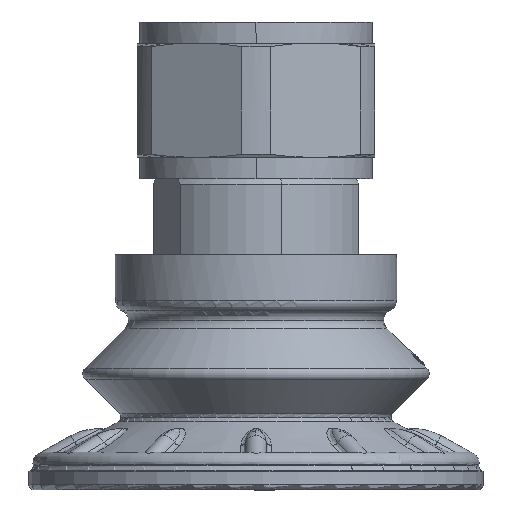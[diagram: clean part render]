
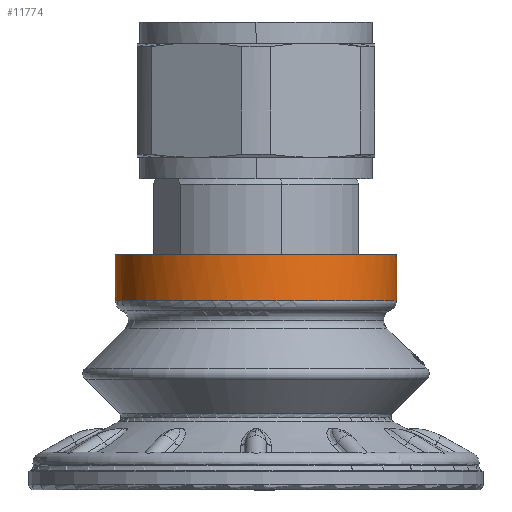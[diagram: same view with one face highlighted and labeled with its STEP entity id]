
A CAD part, left-side view. The second image highlights one B-rep face of the part: STEP entity #11774.
In plain terms, the highlighted cylindrical face has radius 13 mm (diameter 26 mm), a partial arc.
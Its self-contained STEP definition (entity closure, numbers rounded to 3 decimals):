
#337 = CARTESIAN_POINT ( 'NONE',  ( -11.359, 6.547, 13. ) ) ;
#389 = VERTEX_POINT ( 'NONE', #1770 ) ;
#509 = CARTESIAN_POINT ( 'NONE',  ( -12.662, -3.403, 8.733 ) ) ;
#625 = AXIS2_PLACEMENT_3D ( 'NONE', #5039, #8589, #11844 ) ;
#655 = CARTESIAN_POINT ( 'NONE',  ( -3.403, 12.662, 8.733 ) ) ;
#1458 = EDGE_CURVE ( 'NONE', #8893, #7058, #10173, .T. ) ;
#1522 = CARTESIAN_POINT ( 'NONE',  ( -1.702, -13., 13. ) ) ;
#1564 = CARTESIAN_POINT ( 'NONE',  ( 0., -13., 13. ) ) ;
#1673 = CARTESIAN_POINT ( 'NONE',  ( -13., -1.702, 13. ) ) ;
#1770 = CARTESIAN_POINT ( 'NONE',  ( 0., 13., 8.733 ) ) ;
#1880 = CARTESIAN_POINT ( 'NONE',  ( 0., 13., 13. ) ) ;
#1920 = CYLINDRICAL_SURFACE ( 'NONE', #625, 13. ) ;
#2120 = CARTESIAN_POINT ( 'NONE',  ( -1.702, 13., 13. ) ) ;
#2572 = CARTESIAN_POINT ( 'NONE',  ( -3.403, -12.662, 13. ) ) ;
#2737 = CARTESIAN_POINT ( 'NONE',  ( -10.396, 7.989, 8.733 ) ) ;
#2812 = CARTESIAN_POINT ( 'NONE',  ( -1.702, -13., 8.733 ) ) ;
#3783 = CARTESIAN_POINT ( 'NONE',  ( -10.396, -7.989, 8.733 ) ) ;
#4461 = CARTESIAN_POINT ( 'NONE',  ( 0., -13., 13. ) ) ;
#5039 = CARTESIAN_POINT ( 'NONE',  ( 0., 0., -8.77 ) ) ;
#5176 = CARTESIAN_POINT ( 'NONE',  ( -6.547, 11.359, 8.733 ) ) ;
#5444 = CARTESIAN_POINT ( 'NONE',  ( -3.403, 12.662, 13. ) ) ;
#5535 = ORIENTED_EDGE ( 'NONE', *, *, #6623, .T. ) ;
#5860 = CARTESIAN_POINT ( 'NONE',  ( 0., -13., 8.733 ) ) ;
#5966 = CARTESIAN_POINT ( 'NONE',  ( -6.547, -11.359, 13. ) ) ;
#6059 = CARTESIAN_POINT ( 'NONE',  ( -7.989, -10.396, 8.733 ) ) ;
#6112 = CARTESIAN_POINT ( 'NONE',  ( -7.989, -10.396, 13. ) ) ;
#6133 = CARTESIAN_POINT ( 'NONE',  ( 0., 13., 13. ) ) ;
#6247 = EDGE_CURVE ( 'NONE', #389, #13109, #9517, .T. ) ;
#6308 = EDGE_CURVE ( 'NONE', #389, #7058, #11062, .T. ) ;
#6483 = CARTESIAN_POINT ( 'NONE',  ( -10.396, 7.989, 13. ) ) ;
#6623 = EDGE_CURVE ( 'NONE', #8893, #13109, #10878, .T. ) ;
#6904 = EDGE_LOOP ( 'NONE', ( #11866, #8137, #11717, #5535 ) ) ;
#7058 = VERTEX_POINT ( 'NONE', #9280 ) ;
#7321 = CARTESIAN_POINT ( 'NONE',  ( 0., 13., 11.578 ) ) ;
#8137 = ORIENTED_EDGE ( 'NONE', *, *, #6308, .T. ) ;
#8290 = CARTESIAN_POINT ( 'NONE',  ( -13., -1.702, 8.733 ) ) ;
#8441 = CARTESIAN_POINT ( 'NONE',  ( -7.989, 10.396, 8.733 ) ) ;
#8511 = CARTESIAN_POINT ( 'NONE',  ( -6.547, -11.359, 8.733 ) ) ;
#8589 = DIRECTION ( 'NONE',  ( 0., 0., -1. ) ) ;
#8893 = VERTEX_POINT ( 'NONE', #4461 ) ;
#9276 = CARTESIAN_POINT ( 'NONE',  ( 0., -13., 11.578 ) ) ;
#9280 = CARTESIAN_POINT ( 'NONE',  ( 0., -13., 8.733 ) ) ;
#9517 = B_SPLINE_CURVE_WITH_KNOTS ( 'NONE', 3,
 ( #11761, #10722, #7321, #6133 ),
 .UNSPECIFIED., .F., .F.,
 ( 4, 4 ),
 ( 0., 1. ),
 .UNSPECIFIED. ) ;
#9541 = CARTESIAN_POINT ( 'NONE',  ( -11.359, -6.547, 13. ) ) ;
#9559 = CARTESIAN_POINT ( 'NONE',  ( -13., 1.702, 8.733 ) ) ;
#10173 = B_SPLINE_CURVE_WITH_KNOTS ( 'NONE', 3,
 ( #1564, #9276, #10598, #5860 ),
 .UNSPECIFIED., .F., .F.,
 ( 4, 4 ),
 ( 0., 1. ),
 .UNSPECIFIED. ) ;
#10485 = CARTESIAN_POINT ( 'NONE',  ( -12.662, 3.403, 13. ) ) ;
#10580 = CARTESIAN_POINT ( 'NONE',  ( -3.403, -12.662, 8.733 ) ) ;
#10598 = CARTESIAN_POINT ( 'NONE',  ( 0., -13., 10.156 ) ) ;
#10651 = CARTESIAN_POINT ( 'NONE',  ( -11.359, 6.547, 8.733 ) ) ;
#10705 = CARTESIAN_POINT ( 'NONE',  ( -13., 1.702, 13. ) ) ;
#10722 = CARTESIAN_POINT ( 'NONE',  ( 0., 13., 10.156 ) ) ;
#10878 = B_SPLINE_CURVE_WITH_KNOTS ( 'NONE', 3,
 ( #12720, #1522, #2572, #5966, #6112, #12935, #9541, #11816, #1673, #10705, #10485, #337, #6483, #14342, #13299, #5444, #2120, #13082 ),
 .UNSPECIFIED., .F., .F.,
 ( 4, 2, 2, 2, 2, 2, 2, 2, 4 ),
 ( 0., 0.125, 0.25, 0.375, 0.5, 0.625, 0.75, 0.875, 1. ),
 .UNSPECIFIED. ) ;
#11062 = B_SPLINE_CURVE_WITH_KNOTS ( 'NONE', 3,
 ( #11686, #12881, #655, #5176, #8441, #2737, #10651, #12951, #9559, #8290, #509, #14067, #3783, #6059, #8511, #10580, #2812, #13028 ),
 .UNSPECIFIED., .F., .F.,
 ( 4, 2, 2, 2, 2, 2, 2, 2, 4 ),
 ( 0., 0.125, 0.25, 0.375, 0.5, 0.625, 0.75, 0.875, 1. ),
 .UNSPECIFIED. ) ;
#11686 = CARTESIAN_POINT ( 'NONE',  ( 0., 13., 8.733 ) ) ;
#11717 = ORIENTED_EDGE ( 'NONE', *, *, #1458, .F. ) ;
#11761 = CARTESIAN_POINT ( 'NONE',  ( 0., 13., 8.733 ) ) ;
#11774 = ADVANCED_FACE ( 'NONE', ( #14291 ), #1920, .T. ) ;
#11816 = CARTESIAN_POINT ( 'NONE',  ( -12.662, -3.403, 13. ) ) ;
#11844 = DIRECTION ( 'NONE',  ( 0., 1., 0. ) ) ;
#11866 = ORIENTED_EDGE ( 'NONE', *, *, #6247, .F. ) ;
#12720 = CARTESIAN_POINT ( 'NONE',  ( 0., -13., 13. ) ) ;
#12881 = CARTESIAN_POINT ( 'NONE',  ( -1.702, 13., 8.733 ) ) ;
#12935 = CARTESIAN_POINT ( 'NONE',  ( -10.396, -7.989, 13. ) ) ;
#12951 = CARTESIAN_POINT ( 'NONE',  ( -12.662, 3.403, 8.733 ) ) ;
#13028 = CARTESIAN_POINT ( 'NONE',  ( 0., -13., 8.733 ) ) ;
#13082 = CARTESIAN_POINT ( 'NONE',  ( 0., 13., 13. ) ) ;
#13109 = VERTEX_POINT ( 'NONE', #1880 ) ;
#13299 = CARTESIAN_POINT ( 'NONE',  ( -6.547, 11.359, 13. ) ) ;
#14067 = CARTESIAN_POINT ( 'NONE',  ( -11.359, -6.547, 8.733 ) ) ;
#14291 = FACE_OUTER_BOUND ( 'NONE', #6904, .T. ) ;
#14342 = CARTESIAN_POINT ( 'NONE',  ( -7.989, 10.396, 13. ) ) ;
